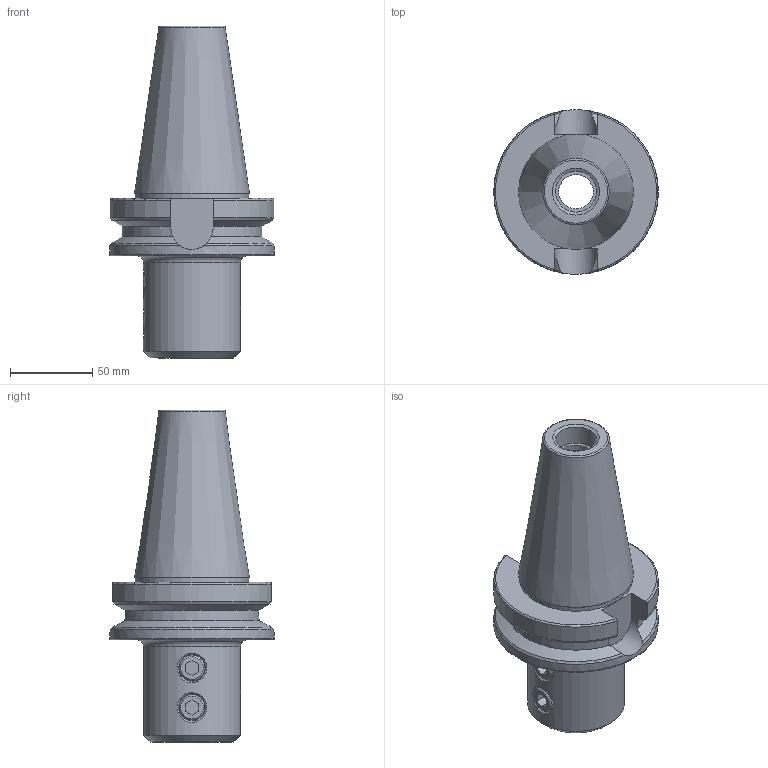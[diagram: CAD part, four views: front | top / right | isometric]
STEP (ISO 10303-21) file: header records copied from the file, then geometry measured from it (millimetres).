
FILE_DESCRIPTION(/* description */ (''),/* implementation_level */ '2;1');
FILE_NAME(/* name */ 'BT50-SL32-100.stp',/* time_stamp */ '2025-10-08T08:58:05+03:00',/* author */ ('User'),/* organization */ (''),/* preprocessor_version */ 'ST-DEVELOPER v19.2',/* originating_system */ 'Autodesk Inventor 2024',/* authorisation */ '');
FILE_SCHEMA (('AUTOMOTIVE_DESIGN { 1 0 10303 214 3 1 1 }'));
Length unit declared in the file: millimetre
Products named in the file (1): BT50-ER32-150
Bounding box: 100 x 100 x 201.8 mm (x, y, z)
Volume: 548666.3 mm3; surface area: 74164.4 mm2
Topology: 3 solids, 3 shells, 67 faces, 174 edges, 116 vertices
Faces by surface type: plane 31, cylinder 16, cone 13, torus 5, bspline 2
Full cylindrical faces by diameter (mm): 15.8 x2, 16 x2, 21 x1, 25 x1, 32 x1, 59 x1, 69 x1, 100 x1
Entity records: 2548 total; most frequent: CARTESIAN_POINT 890, ORIENTED_EDGE 348, DIRECTION 317, EDGE_CURVE 174, AXIS2_PLACEMENT_3D 119, VERTEX_POINT 116, LINE 79, VECTOR 79
